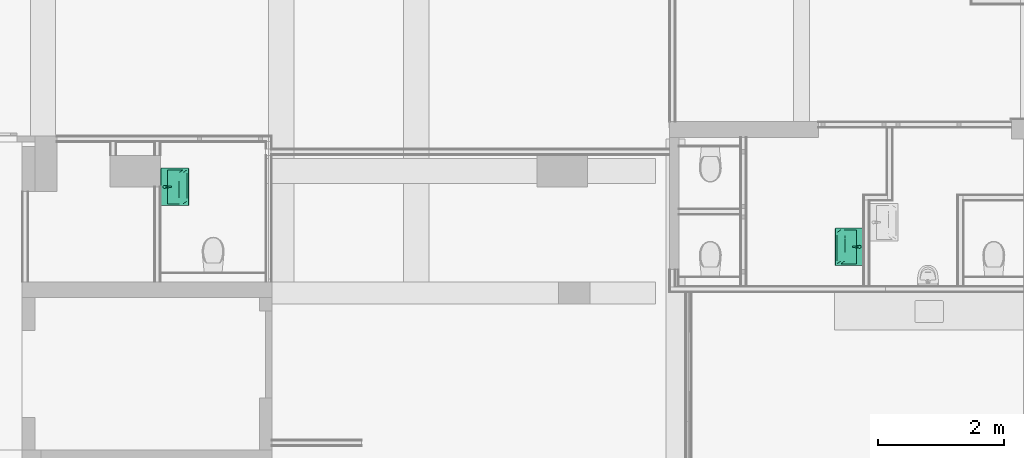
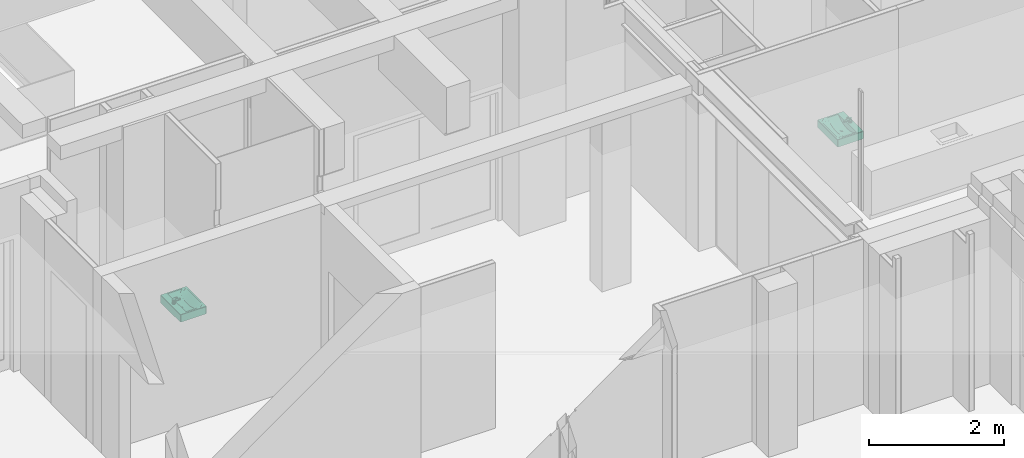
# One storey, part 97 of 117: 2 flow controllers.
"""IFC2X3 building model written with IfcOpenShell, lengths in millimetres."""

from ifc_helpers import new_model, entity, si_unit, converted_unit, derived_unit, money_unit, direction, frame, origin_with_axes, place, context, subcontext, project, spatial, open_shell, faceted_brep, surface_model, source, transform, mapped, type_object, type_shapes, element, save


model = new_model("IFC2X3")

# Units and contexts
model_context = context("Model", 3, precision=0.01, world=origin_with_axes(), true_north=direction((0.0, 1.0)))
body_context = subcontext(model_context, "Body", "Model", "MODEL_VIEW")
ifc_project = project(units=[si_unit("LENGTHUNIT", "METRE", prefix="MILLI"), si_unit("AREAUNIT", "SQUARE_METRE"), si_unit("VOLUMEUNIT", "CUBIC_METRE"), converted_unit("PLANEANGLEUNIT", "DEGREE", entity("IfcPlaneAngleMeasure", 0.0174532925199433), si_unit("PLANEANGLEUNIT", "RADIAN"), dimensions=[0, 0, 0, 0, 0, 0, 0]), money_unit("EUR"), converted_unit("TIMEUNIT", "Year", entity("IfcTimeMeasure", 31557600.0), si_unit("TIMEUNIT", "SECOND"), dimensions=[0, 0, 1, 0, 0, 0, 0]), si_unit("MASSUNIT", "GRAM", prefix="KILO"), si_unit("THERMODYNAMICTEMPERATUREUNIT", "DEGREE_CELSIUS"), si_unit("LUMINOUSINTENSITYUNIT", "LUMEN"), si_unit("ENERGYUNIT", "JOULE", prefix="MEGA"), derived_unit("THERMALCONDUCTANCEUNIT", [(si_unit("POWERUNIT", "WATT"), 1), (si_unit("LENGTHUNIT", "METRE"), -1), (si_unit("THERMODYNAMICTEMPERATUREUNIT", "KELVIN"), -1)]), derived_unit("SPECIFICHEATCAPACITYUNIT", [(si_unit("ENERGYUNIT", "JOULE"), 1), (si_unit("MASSUNIT", "GRAM", prefix="KILO"), -1), (si_unit("THERMODYNAMICTEMPERATUREUNIT", "KELVIN"), -1)]), derived_unit("MASSDENSITYUNIT", [(si_unit("MASSUNIT", "GRAM", prefix="KILO"), 1), (si_unit("VOLUMEUNIT", "CUBIC_METRE"), -1)])], contexts=[model_context])

# Site, building, storey
site_placement = place(None, origin_with_axes())
site = spatial("IfcSite", under=ifc_project, at=site_placement, Name="Site", CompositionType="ELEMENT")
building_placement = place(site_placement, origin_with_axes())
building = spatial("IfcBuilding", under=site, at=building_placement, Name="Naam gebouw", CompositionType="ELEMENT")
storey_placement = place(building_placement, frame((0.0, 0.0, 4150.0), z_axis=(0.0, 0.0, 1.0), x_axis=(1.0, 0.0, 0.0)))
storey = spatial("IfcBuildingStorey", under=building, at=storey_placement, Name="1e verdieping N", CompositionType="ELEMENT", Elevation=4150.0)

# Flow controllers
valve_type = type_object("IfcValveType", Name="Wasbak 27", PredefinedType="NOTDEFINED")
shared_shape = source(origin_with_axes(), body_context, "Body", "SurfaceModel", [
    faceted_brep([(-285.0, -450.0, 865.0), (-292.5, -447.9903810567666, 865.0), (-297.9903810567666, -442.5, 865.0), (-300.0, -435.0, 865.0), (-300.0, -15.00000000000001, 865.0), (-297.9903810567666, -7.500000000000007, 865.0), (-292.5, -2.009618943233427, 865.0), (-285.0, 0.0, 865.0), (285.0, 0.0, 865.0), (292.5, -2.009618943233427, 865.0), (297.9903810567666, -7.500000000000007, 865.0), (300.0, -15.00000000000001, 865.0), (300.0, -435.0, 865.0), (297.9903810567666, -442.5, 865.0), (292.5, -447.9903810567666, 865.0), (285.0, -450.0, 865.0), (270.0, -420.0000000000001, 865.0), (270.0, -110.0, 865.0), (-270.0, -110.0, 865.0), (-270.0, -420.0000000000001, 865.0), (-284.9999995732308, -450.0000003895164, 995.0), (-292.499999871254, -447.9903813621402, 995.0), (-297.990381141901, -442.5000000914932, 995.0), (-300.0000001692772, -434.99999979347, 995.0), (-300.0000001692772, -14.99999986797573, 995.0), (-297.990381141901, -7.499999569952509, 995.0), (-292.499999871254, -2.009619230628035, 995.0), (-284.9999995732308, -2.032518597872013e-07, 995.0), (284.9999997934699, -2.032518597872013e-07, 995.0), (292.5000000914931, -2.009619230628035, 995.0), (297.9903813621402, -7.499999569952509, 995.0), (300.0000003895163, -14.99999986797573, 995.0), (300.0000003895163, -434.99999979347, 995.0), (297.9903813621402, -442.5000000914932, 995.0), (292.5000000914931, -447.9903813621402, 995.0), (284.9999997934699, -450.0000003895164, 995.0), (270.0, -110.0, 999.9999996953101), (270.0, -420.0000000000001, 999.9999996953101), (-270.0, -110.0, 999.9999996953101), (-270.0, -420.0000000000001, 999.9999996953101), (-284.9775698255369, -449.8296295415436, 996.2940952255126), (-292.411809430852, -447.8376310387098, 996.2940952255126), (-297.8376308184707, -442.4118096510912, 996.2940952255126), (-299.8296293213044, -434.9775700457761, 996.2940952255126), (-299.8296293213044, -15.02242961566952, 996.2940952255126), (-297.8376308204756, -7.588190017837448, 996.2940952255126), (-292.4118094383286, -2.16236955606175, 996.2940952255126), (-284.9775698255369, -0.1703710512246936, 996.2940952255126), (284.9775700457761, -0.1703710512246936, 996.2940952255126), (292.4118096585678, -2.16236955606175, 996.2940952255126), (297.8376310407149, -7.588190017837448, 996.2940952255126), (299.8296295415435, -15.02242961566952, 996.2940952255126), (299.8296295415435, -434.9775700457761, 996.2940952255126), (297.8376310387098, -442.4118096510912, 996.2940952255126), (292.4118096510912, -447.8376310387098, 996.2940952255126), (284.9775700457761, -449.8296295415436, 996.2940952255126), (284.3417376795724, -4.999997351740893, 999.9999996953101), (-284.3417374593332, -4.999997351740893, 999.9999996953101), (-289.9118111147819, -6.492494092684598, 999.9999996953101), (-293.507506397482, -10.08818876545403, 999.9999996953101), (-295.0000030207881, -15.6582619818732, 999.9999996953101), (-295.0000030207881, -434.3417376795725, 999.9999996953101), (-293.5075063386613, -439.9118111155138, 999.9999996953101), (-289.9118108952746, -443.5075065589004, 999.9999996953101), (-284.3417374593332, -445.0000032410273, 999.9999996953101), (284.3417376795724, -445.0000032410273, 999.9999996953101), (289.9118111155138, -443.5075065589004, 999.9999996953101), (293.5075065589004, -439.9118111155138, 999.9999996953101), (295.0000032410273, -434.3417376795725, 999.9999996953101), (295.0000032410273, -15.6582619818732, 999.9999996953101), (293.5075066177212, -10.08818876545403, 999.9999996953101), (289.911811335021, -6.492494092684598, 999.9999996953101), (-284.8071989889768, -448.5355345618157, 998.5355339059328), (-291.7419365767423, -446.6773772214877, 998.5355339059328), (-296.6773770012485, -441.7419367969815, 998.5355339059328), (-298.5355343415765, -434.807199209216, 998.5355339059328), (-298.5355343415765, -15.1928004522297, 998.5355339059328), (-296.677377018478, -8.258062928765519, 998.5355339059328), (-291.7419366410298, -3.322623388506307, 998.5355339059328), (-284.8071989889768, -1.464466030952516, 998.5355339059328), (284.8071992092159, -1.464466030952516, 998.5355339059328), (291.7419368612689, -3.322623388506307, 998.5355339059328), (296.6773772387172, -8.258062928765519, 998.5355339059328), (298.5355345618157, -15.1928004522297, 998.5355339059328), (298.5355345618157, -434.807199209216, 998.5355339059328), (296.6773772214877, -441.7419367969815, 998.5355339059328), (291.7419367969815, -446.6773772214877, 998.5355339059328), (284.8071992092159, -448.5355345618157, 998.5355339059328), (284.5121082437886, -3.705904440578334, 999.8296291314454), (-284.5121080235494, -3.705904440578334, 999.8296291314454), (-290.581682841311, -5.332242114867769, 999.8296291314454), (-294.667758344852, -9.418316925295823, 999.8296291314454), (-296.2940959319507, -15.487891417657, 999.8296291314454), (-296.2940959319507, -434.5121082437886, 999.8296291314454), (-294.6677583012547, -440.5816828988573, 999.8296291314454), (-290.5816826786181, -444.6677585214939, 999.8296291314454), (-284.5121080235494, -446.2940961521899, 999.8296291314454), (284.5121082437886, -446.2940961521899, 999.8296291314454), (290.5816828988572, -444.6677585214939, 999.8296291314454), (294.6677585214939, -440.5816828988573, 999.8296291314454), (296.2940961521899, -434.5121082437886, 999.8296291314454), (296.2940961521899, -15.487891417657, 999.8296291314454), (294.6677585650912, -9.418316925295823, 999.8296291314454), (290.5816830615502, -5.332242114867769, 999.8296291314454)], [[[0, 1, 2, 3, 4, 5, 6, 7, 8, 9, 10, 11, 12, 13, 14, 15], [16, 17, 18, 19]], [[1, 0, 20, 21]], [[2, 1, 21, 22]], [[3, 2, 22, 23]], [[4, 3, 23, 24]], [[5, 4, 24, 25]], [[6, 5, 25, 26]], [[7, 6, 26, 27]], [[8, 7, 27, 28]], [[9, 8, 28, 29]], [[10, 9, 29, 30]], [[11, 10, 30, 31]], [[12, 11, 31, 32]], [[13, 12, 32, 33]], [[14, 13, 33, 34]], [[15, 14, 34, 35]], [[0, 15, 35, 20]], [[36, 17, 16, 37]], [[38, 18, 17, 36]], [[39, 19, 18, 38]], [[37, 16, 19, 39]], [[21, 20, 40, 41]], [[22, 21, 41, 42]], [[23, 22, 42, 43]], [[24, 23, 43, 44]], [[25, 24, 44, 45]], [[26, 25, 45, 46]], [[27, 26, 46, 47]], [[28, 27, 47, 48]], [[29, 28, 48, 49]], [[30, 29, 49, 50]], [[31, 30, 50, 51]], [[32, 31, 51, 52]], [[33, 32, 52, 53]], [[34, 33, 53, 54]], [[35, 34, 54, 55]], [[20, 35, 55, 40]], [[56, 57, 58, 59, 60, 61, 62, 63, 64, 65, 66, 67, 68, 69, 70, 71], [37, 39, 38, 36]], [[41, 40, 72, 73]], [[42, 41, 73, 74]], [[43, 42, 74, 75]], [[44, 43, 75, 76]], [[45, 44, 76, 77]], [[46, 45, 77, 78]], [[47, 46, 78, 79]], [[48, 47, 79, 80]], [[49, 48, 80, 81]], [[50, 49, 81, 82]], [[51, 50, 82, 83]], [[52, 51, 83, 84]], [[53, 52, 84, 85]], [[54, 53, 85, 86]], [[55, 54, 86, 87]], [[40, 55, 87, 72]], [[88, 89, 57, 56]], [[89, 90, 58, 57]], [[90, 91, 59, 58]], [[91, 92, 60, 59]], [[92, 93, 61, 60]], [[93, 94, 62, 61]], [[94, 95, 63, 62]], [[95, 96, 64, 63]], [[96, 97, 65, 64]], [[97, 98, 66, 65]], [[98, 99, 67, 66]], [[99, 100, 68, 67]], [[100, 101, 69, 68]], [[101, 102, 70, 69]], [[102, 103, 71, 70]], [[103, 88, 56, 71]], [[73, 72, 96, 95]], [[74, 73, 95, 94]], [[75, 74, 94, 93]], [[76, 75, 93, 92]], [[77, 76, 92, 91]], [[78, 77, 91, 90]], [[79, 78, 90, 89]], [[80, 79, 89, 88]], [[81, 80, 88, 103]], [[82, 81, 103, 102]], [[83, 82, 102, 101]], [[84, 83, 101, 100]], [[85, 84, 100, 99]], [[86, 85, 99, 98]], [[87, 86, 98, 97]], [[72, 87, 97, 96]]]),
    faceted_brep([(270.0, -420.0000000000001, 865.0), (-270.0, -420.0000000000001, 865.0), (-270.0, -110.0, 865.0), (270.0, -110.0, 865.0), (-12.49999999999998, -224.368635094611, 865.0), (0.0, -227.718, 865.0), (12.50000000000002, -224.368635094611, 865.0), (21.65063509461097, -215.218, 865.0), (25.0, -202.718, 865.0), (21.65063509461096, -190.218, 865.0), (12.49999999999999, -181.067364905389, 865.0), (0.0, -177.718, 865.0), (-12.50000000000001, -181.067364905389, 865.0), (-21.65063509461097, -190.218, 865.0), (-25.0, -202.718, 865.0), (-21.65063509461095, -215.218, 865.0), (135.0, -420.0000000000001, 1000.0), (90.0, -420.0000000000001, 1000.0), (44.99999999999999, -420.0000000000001, 1000.0), (0.0, -420.0000000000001, 1000.0), (-45.00000000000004, -420.0000000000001, 1000.0), (-90.00000000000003, -420.0000000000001, 1000.0), (-135.0, -420.0000000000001, 1000.0), (-180.0000000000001, -420.0000000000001, 1000.0), (-225.0, -420.0000000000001, 1000.0), (-270.0, -420.0000000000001, 1000.0), (270.0, -420.0000000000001, 1000.0), (225.0, -420.0000000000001, 1000.0), (180.0, -420.0000000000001, 1000.0), (-270.0, -234.0, 1000.0), (-270.0, -172.0, 1000.0), (-270.0, -110.0, 1000.0), (-270.0, -358.0000000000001, 1000.0), (-270.0, -296.0000000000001, 999.9999999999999), (-135.0, -110.0, 922.6004593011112), (-90.00000000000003, -110.0, 909.8887668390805), (-45.00000000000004, -110.0, 902.449942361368), (0.0, -110.0, 900.0), (44.99999999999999, -110.0, 902.449942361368), (90.0, -110.0, 909.8887668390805), (135.0, -110.0, 922.6004593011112), (180.0, -110.0, 941.1231796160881), (225.0, -110.0, 966.3832810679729), (270.0, -110.0, 1000.0), (-225.0, -110.0, 966.3832810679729), (-180.0000000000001, -110.0, 941.1231796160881), (270.0, -296.0000000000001, 1000.0), (270.0, -358.0000000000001, 1000.0), (270.0, -172.0, 1000.0), (270.0, -234.0, 1000.0), (0.0, -227.718, 900.0), (-12.49999999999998, -224.368635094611, 900.6805395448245), (12.50000000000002, -224.368635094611, 900.6805395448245), (21.65063509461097, -215.218, 901.1787290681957), (25.0, -202.718, 901.3610790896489), (21.65063509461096, -190.218, 901.1787290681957), (12.49999999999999, -181.067364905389, 900.6805395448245), (0.0, -177.718, 900.0), (-12.50000000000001, -181.067364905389, 900.6805395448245), (-21.65063509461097, -190.218, 901.1787290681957), (-25.0, -202.718, 901.3610790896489), (-21.65063509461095, -215.218, 901.1787290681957), (90.0, -358.0000000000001, 959.6989661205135), (44.99999999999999, -358.0000000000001, 956.0213334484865), (0.0, -358.0000000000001, 954.7990813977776), (-45.00000000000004, -358.0000000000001, 956.0213334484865), (-90.00000000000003, -358.0000000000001, 959.6989661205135), (-135.0, -358.0000000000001, 965.8650987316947), (-180.0000000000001, -358.0000000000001, 974.5766150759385), (-225.0, -358.0000000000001, 985.9168845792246), (225.0, -358.0000000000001, 985.9168845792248), (180.0, -358.0000000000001, 974.5766150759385), (135.0, -358.0000000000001, 965.8650987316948), (-225.0, -234.0, 966.3832810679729), (-225.0, -172.0, 966.3832810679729), (-225.0, -296.0000000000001, 970.8433791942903), (-135.0, -172.0, 922.6004593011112), (-90.00000000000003, -172.0, 909.8887668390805), (-45.00000000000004, -172.0, 902.449942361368), (0.0, -172.0, 900.0), (44.99999999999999, -172.0, 902.449942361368), (90.0, -172.0, 909.8887668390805), (135.0, -172.0, 922.6004593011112), (180.0, -172.0, 941.1231796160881), (225.0, -172.0, 966.3832810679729), (-180.0000000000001, -172.0, 941.1231796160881), (225.0, -296.0000000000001, 970.8433791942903), (225.0, -234.0, 966.3832810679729), (-45.00000000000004, -234.0, 902.449942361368), (0.0, -234.0, 900.0), (44.99999999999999, -234.0, 902.449942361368), (-180.0000000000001, -234.0, 941.1231796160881), (-135.0, -234.0, 922.6004593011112), (-90.00000000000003, -234.0, 909.8887668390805), (90.0, -234.0, 909.8887668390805), (135.0, -234.0, 922.6004593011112), (180.0, -234.0, 941.1231796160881), (0.0, -296.0000000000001, 911.4604006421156), (44.99999999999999, -296.0000000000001, 913.6864730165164), (90.0, -296.0000000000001, 920.4312036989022), (-45.00000000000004, -296.0000000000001, 913.6864730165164), (-90.00000000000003, -296.0000000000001, 920.4312036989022), (-135.0, -296.0000000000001, 931.904485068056), (-180.0000000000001, -296.0000000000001, 948.4946543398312), (180.0, -296.0000000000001, 948.4946543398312), (135.0, -296.0000000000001, 931.904485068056)], [[[0, 1, 2, 3], [4, 5, 6, 7, 8, 9, 10, 11, 12, 13, 14, 15]], [[16, 17, 18, 19, 20, 21, 22, 23, 24, 25, 1, 0, 26, 27, 28]], [[29, 30, 31, 2, 1, 25, 32, 33]], [[34, 35, 36, 37, 38, 39, 40, 41, 42, 43, 3, 2, 31, 44, 45]], [[46, 47, 26, 0, 3, 43, 48, 49]], [[50, 5, 4, 51]], [[52, 6, 5, 50]], [[53, 7, 6, 52]], [[54, 8, 7, 53]], [[55, 9, 8, 54]], [[56, 10, 9, 55]], [[57, 11, 10, 56]], [[58, 12, 11, 57]], [[59, 13, 12, 58]], [[60, 14, 13, 59]], [[61, 15, 14, 60]], [[51, 4, 15, 61]], [[16, 62, 17]], [[17, 63, 18]], [[18, 64, 19]], [[19, 65, 20]], [[20, 66, 21]], [[21, 67, 22]], [[22, 68, 23]], [[23, 69, 24]], [[24, 32, 25]], [[26, 70, 27]], [[27, 71, 28]], [[28, 72, 16]], [[29, 73, 74, 30]], [[30, 74, 44, 31]], [[69, 33, 32]], [[75, 29, 33]], [[76, 77, 35, 34]], [[77, 78, 36, 35]], [[78, 79, 37, 36]], [[79, 80, 38, 37]], [[80, 81, 39, 38]], [[81, 82, 40, 39]], [[82, 83, 41, 40]], [[83, 84, 42, 41]], [[84, 48, 43, 42]], [[74, 85, 45, 44]], [[85, 76, 34, 45]], [[47, 46, 86]], [[26, 47, 70]], [[87, 49, 48, 84]], [[46, 49, 87]], [[58, 57, 79, 78, 88, 89, 50, 51, 61, 60, 59]], [[56, 55, 54, 53, 52, 50, 89, 90, 80, 79, 57]], [[16, 72, 62]], [[17, 62, 63]], [[18, 63, 64]], [[19, 64, 65]], [[20, 65, 66]], [[21, 66, 67]], [[22, 67, 68]], [[23, 68, 69]], [[24, 69, 32]], [[27, 70, 71]], [[28, 71, 72]], [[75, 73, 29]], [[73, 91, 85, 74]], [[69, 75, 33]], [[92, 93, 77, 76]], [[93, 88, 78, 77]], [[90, 94, 81, 80]], [[94, 95, 82, 81]], [[95, 96, 83, 82]], [[96, 87, 84, 83]], [[91, 92, 76, 85]], [[46, 87, 86]], [[47, 86, 70]], [[97, 89, 88]], [[98, 90, 89]], [[72, 99, 62]], [[62, 98, 63]], [[63, 97, 64]], [[64, 100, 65]], [[65, 101, 66]], [[66, 102, 67]], [[67, 103, 68]], [[68, 75, 69]], [[70, 104, 71]], [[71, 105, 72]], [[103, 73, 75]], [[103, 91, 73]], [[101, 93, 92]], [[100, 88, 93]], [[99, 94, 90]], [[105, 95, 94]], [[104, 96, 95]], [[86, 87, 96]], [[102, 92, 91]], [[70, 86, 104]], [[98, 89, 97]], [[97, 88, 100]], [[99, 90, 98]], [[72, 105, 99]], [[62, 99, 98]], [[63, 98, 97]], [[64, 97, 100]], [[65, 100, 101]], [[66, 101, 102]], [[67, 102, 103]], [[68, 103, 75]], [[71, 104, 105]], [[102, 91, 103]], [[100, 93, 101]], [[101, 92, 102]], [[105, 94, 99]], [[104, 95, 105]], [[86, 96, 104]]]),
    faceted_brep([(-21.65063509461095, -215.218, 900.0), (-25.0, -202.718, 900.0), (-21.65063509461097, -190.218, 900.0), (-12.50000000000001, -181.067364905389, 900.0), (0.0, -177.718, 900.0), (12.49999999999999, -181.067364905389, 900.0), (21.65063509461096, -190.218, 900.0), (25.0, -202.718, 900.0), (21.65063509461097, -215.218, 900.0), (12.50000000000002, -224.368635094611, 900.0), (0.0, -227.718, 900.0), (-12.49999999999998, -224.368635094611, 900.0), (-21.65063509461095, -215.218, 905.0), (-25.0, -202.718, 905.0), (-21.65063509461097, -190.218, 905.0), (-12.50000000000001, -181.067364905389, 905.0), (0.0, -177.718, 905.0), (12.49999999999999, -181.067364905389, 905.0), (21.65063509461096, -190.218, 905.0), (25.0, -202.718, 905.0), (21.65063509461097, -215.218, 905.0), (12.50000000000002, -224.368635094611, 905.0), (0.0, -227.718, 905.0), (-12.49999999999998, -224.368635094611, 905.0)], [[[0, 1, 2, 3, 4, 5, 6, 7, 8, 9, 10, 11]], [[0, 12, 13, 1]], [[1, 13, 14, 2]], [[2, 14, 15, 3]], [[3, 15, 16, 4]], [[4, 16, 17, 5]], [[5, 17, 18, 6]], [[6, 18, 19, 7]], [[7, 19, 20, 8]], [[8, 20, 21, 9]], [[9, 21, 22, 10]], [[10, 22, 23, 11]], [[11, 23, 12, 0]], [[12, 23, 22, 21, 20, 19, 18, 17, 16, 15, 14, 13]]]),
    surface_model("IfcShellBasedSurfaceModel", [(0.0, -202.718, 907.0), (6.310952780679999, -191.7871091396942, 906.4975737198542), (0.0, -190.09609443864, 906.4975737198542), (10.93089086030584, -196.40704721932, 906.4975737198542), (12.5, -181.067364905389, 905.0), (0.0, -177.718, 905.0), (-6.310952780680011, -191.7871091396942, 906.4975737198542), (12.62190556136, -202.718, 906.4975737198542), (21.65063509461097, -190.218, 905.0), (-12.50000000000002, -181.067364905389, 905.0), (-10.93089086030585, -196.40704721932, 906.4975737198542), (10.93089086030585, -209.02895278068, 906.4975737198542), (25.0, -202.718, 905.0), (-21.65063509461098, -190.218, 905.0), (-12.62190556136, -202.718, 906.4975737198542), (6.310952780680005, -213.6488908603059, 906.4975737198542), (21.65063509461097, -215.218, 905.0), (-25.0, -202.718, 905.0), (-10.93089086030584, -209.02895278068, 906.4975737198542), (0.0, -215.33990556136, 906.4975737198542), (12.50000000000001, -224.368635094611, 905.0), (-21.65063509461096, -215.218, 905.0), (-6.310952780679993, -213.6488908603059, 906.4975737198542), (0.0, -227.718, 905.0), (-12.49999999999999, -224.368635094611, 905.0)], [open_shell([[[0, 1, 2]], [[0, 3, 1]], [[1, 4, 5, 2]], [[0, 2, 6]], [[0, 7, 3]], [[3, 8, 4, 1]], [[2, 5, 9, 6]], [[0, 6, 10]], [[0, 11, 7]], [[7, 12, 8, 3]], [[6, 9, 13, 10]], [[0, 10, 14]], [[0, 15, 11]], [[11, 16, 12, 7]], [[10, 13, 17, 14]], [[0, 14, 18]], [[0, 19, 15]], [[15, 20, 16, 11]], [[14, 17, 21, 18]], [[0, 18, 22]], [[0, 22, 19]], [[19, 23, 20, 15]], [[18, 21, 24, 22]], [[22, 24, 23, 19]]])]),
    faceted_brep([(-12.50000000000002, -38.34936490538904, 1000.0), (-10.587322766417, -41.66221905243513, 1076.507089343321), (0.0, -38.79807692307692, 1075.961538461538), (0.0, -34.99999999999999, 1000.0), (-21.65063509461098, -47.50000000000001, 1000.0), (-18.27355038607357, -49.44976076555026, 1077.99043062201), (-21.0, -60.00000000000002, 1080.0), (-18.10034137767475, -70.45023696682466, 1081.990521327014), (-10.41410590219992, -78.03776053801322, 1083.435763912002), (0.0, -80.80188679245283, 1083.962264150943), (10.41410590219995, -78.0377605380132, 1083.435763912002), (18.10034137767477, -70.45023696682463, 1081.990521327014), (21.0, -59.99999999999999, 1080.0), (18.27355038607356, -49.44976076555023, 1077.99043062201), (10.58732276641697, -41.66221905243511, 1076.507089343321), (12.5, -38.34936490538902, 1000.0), (21.65063509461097, -47.49999999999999, 1000.0), (25.0, -59.99999999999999, 1000.0), (21.65063509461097, -72.5, 1000.0), (12.50000000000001, -81.65063509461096, 1000.0), (0.0, -84.99999999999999, 1000.0), (-12.49999999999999, -81.65063509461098, 1000.0), (-21.65063509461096, -72.50000000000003, 1000.0), (-25.0, -60.00000000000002, 1000.0)], [[[0, 1, 2, 3]], [[4, 5, 1, 0]], [[1, 5, 6, 7, 8, 9, 10, 11, 12, 13, 14, 2]], [[3, 2, 14, 15]], [[0, 3, 15, 16, 17, 18, 19, 20, 21, 22, 23, 4]], [[23, 6, 5, 4]], [[22, 7, 6, 23]], [[21, 8, 7, 22]], [[20, 9, 8, 21]], [[19, 10, 9, 20]], [[18, 11, 10, 19]], [[17, 12, 11, 18]], [[16, 13, 12, 17]], [[15, 14, 13, 16]]]),
    faceted_brep([(-9.000000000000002, -163.0, 1035.0), (-9.000000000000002, -163.0, 1045.0), (-7.794228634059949, -158.5, 1045.0), (-7.794228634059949, -158.5, 1035.0), (-7.794228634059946, -167.5, 1035.0), (-7.794228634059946, -167.5, 1045.0), (-4.499999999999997, -170.79422863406, 1045.0), (0.0, -172.0, 1045.0), (4.500000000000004, -170.79422863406, 1045.0), (7.794228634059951, -167.5, 1045.0), (9.000000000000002, -163.0, 1045.0), (7.794228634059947, -158.5, 1045.0), (4.499999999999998, -155.2057713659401, 1045.0), (0.0, -154.0, 1045.0), (-4.500000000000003, -155.2057713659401, 1045.0), (-4.500000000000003, -155.2057713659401, 1035.0), (0.0, -154.0, 1035.0), (4.499999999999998, -155.2057713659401, 1035.0), (7.794228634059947, -158.5, 1035.0), (9.000000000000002, -163.0, 1035.0), (7.794228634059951, -167.5, 1035.0), (4.500000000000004, -170.79422863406, 1035.0), (0.0, -172.0, 1035.0), (-4.499999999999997, -170.79422863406, 1035.0)], [[[0, 1, 2, 3]], [[4, 5, 1, 0]], [[1, 5, 6, 7, 8, 9, 10, 11, 12, 13, 14, 2]], [[3, 2, 14, 15]], [[0, 3, 15, 16, 17, 18, 19, 20, 21, 22, 23, 4]], [[23, 6, 5, 4]], [[22, 7, 6, 23]], [[21, 8, 7, 22]], [[20, 9, 8, 21]], [[19, 10, 9, 20]], [[18, 11, 10, 19]], [[17, 12, 11, 18]], [[16, 13, 12, 17]], [[15, 14, 13, 16]]]),
    faceted_brep([(12.87171762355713, -39.74369617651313, 1060.0), (-1.019988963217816e-06, -36.00002168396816, 1060.0), (-12.87171934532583, -39.74369727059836, 1060.0), (-21.72780617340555, -49.80679647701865, 1060.0), (-23.80539974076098, -63.04990202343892, 1060.0), (-10.912, -164.3883, 1060.0), (-9.02891689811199, -169.2831346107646, 1060.0), (-5.093388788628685, -172.7496928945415, 1060.0), (-3.626798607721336e-05, -173.9999600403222, 1060.0), (5.093324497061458, -172.7497264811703, 1060.0), (9.02887546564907, -169.2831941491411, 1060.0), (10.9119908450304, -164.3883719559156, 1060.0), (23.8054, -63.04989999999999, 1060.0), (21.72780530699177, -49.80679463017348, 1060.0), (-11.00000000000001, -40.94744111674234, 1060.0), (0.0, -37.99999999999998, 1060.0), (11.0, -40.94744111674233, 1060.0), (19.05255888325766, -48.99999999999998, 1060.0), (22.00000000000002, -59.99999999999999, 1060.0), (19.05255888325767, -70.99999999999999, 1060.0), (11.00000000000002, -79.05255888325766, 1060.0), (0.0, -82.0, 1060.0), (-10.99999999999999, -79.05255888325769, 1060.0), (-19.05255888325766, -71.00000000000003, 1060.0), (-22.00000000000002, -60.0, 1060.0), (-19.05255888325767, -48.99999999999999, 1060.0), (12.87171762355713, -39.74369617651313, 1045.0), (-1.019988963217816e-06, -36.00002168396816, 1045.0), (-12.87171934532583, -39.74369727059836, 1045.0), (-21.72780617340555, -49.80679647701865, 1045.0), (-23.80539974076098, -63.04990202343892, 1045.0), (-10.912, -164.3883, 1045.0), (-9.02891689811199, -169.2831346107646, 1045.0), (-5.093388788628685, -172.7496928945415, 1045.0), (-3.626798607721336e-05, -173.9999600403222, 1045.0), (5.093324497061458, -172.7497264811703, 1045.0), (9.02887546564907, -169.2831941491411, 1045.0), (10.9119908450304, -164.3883719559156, 1045.0), (23.8054, -63.04989999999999, 1045.0), (21.72780530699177, -49.80679463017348, 1045.0), (0.0, -37.24999999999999, 1045.0), (-11.37500000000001, -40.297922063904, 1045.0), (11.375, -40.297922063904, 1045.0), (19.70207793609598, -48.62499999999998, 1045.0), (22.75000000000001, -59.99999999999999, 1045.0), (19.70207793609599, -71.375, 1045.0), (11.37500000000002, -79.70207793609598, 1045.0), (0.0, -82.75, 1045.0), (-11.37499999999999, -79.702077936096, 1045.0), (-19.70207793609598, -71.37500000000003, 1045.0), (-22.75000000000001, -60.0, 1045.0), (-19.70207793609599, -48.62499999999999, 1045.0)], [[[0, 1, 2, 3, 4, 5, 6, 7, 8, 9, 10, 11, 12, 13], [14, 15, 16, 17, 18, 19, 20, 21, 22, 23, 24, 25]], [[26, 27, 1, 0]], [[27, 28, 2, 1]], [[28, 29, 3, 2]], [[29, 30, 4, 3]], [[30, 31, 5, 4]], [[31, 32, 6, 5]], [[32, 33, 7, 6]], [[33, 34, 8, 7]], [[34, 35, 9, 8]], [[35, 36, 10, 9]], [[36, 37, 11, 10]], [[37, 38, 12, 11]], [[38, 39, 13, 12]], [[39, 26, 0, 13]], [[40, 15, 14, 41]], [[42, 16, 15, 40]], [[16, 42, 43, 17]], [[17, 43, 44, 18]], [[18, 44, 45, 19]], [[19, 45, 46, 20]], [[20, 46, 47, 21]], [[48, 22, 21, 47]], [[49, 23, 22, 48]], [[50, 24, 23, 49]], [[51, 25, 24, 50]], [[41, 14, 25, 51]], [[34, 33, 32, 31, 30, 29, 28, 27, 26, 39, 38, 37, 36, 35], [48, 47, 46, 45, 44, 43, 42, 40, 41, 51, 50, 49]]]),
    faceted_brep([(-23.893, -61.69256934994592, 1080.322394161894), (-23.893, -60.94412091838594, 1084.251748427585), (-21.29642141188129, -48.47683276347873, 1081.877026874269), (-21.29642141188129, -49.22528119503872, 1077.947672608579), (-20.94593649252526, -101.8367022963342, 1087.968895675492), (-20.94593649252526, -101.0882538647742, 1091.898249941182), (-17.66313911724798, -110.765918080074, 1093.74161455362), (-10.06143529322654, -117.7152976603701, 1095.065305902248), (0.0004426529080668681, -120.2371634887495, 1095.54566129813), (10.06221236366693, -117.7148809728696, 1095.0652265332), (17.66361794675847, -110.7651865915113, 1093.741475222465), (20.946, -101.0873864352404, 1091.898084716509), (23.89302047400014, -60.9438419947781, 1084.251695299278), (21.29629106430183, -48.47658415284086, 1081.876979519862), (12.4716815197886, -39.16035412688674, 1080.102459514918), (-0.0001423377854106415, -35.71958706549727, 1079.447075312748), (-12.47192457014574, -39.16049972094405, 1080.102487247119), (-14.0, -84.79235429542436, 1088.79426907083), (14.0, -84.79235429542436, 1088.79426907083), (14.0, -99.60798455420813, 1091.616293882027), (12.12435565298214, -106.4843545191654, 1092.926078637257), (7.000000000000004, -111.5182067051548, 1093.884907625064), (0.0, -113.3607244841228, 1094.235863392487), (-6.999999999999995, -111.5182067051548, 1093.884907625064), (-12.12435565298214, -106.4843545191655, 1092.926078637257), (-14.0, -99.60798455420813, 1091.616293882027), (-12.47192457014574, -39.90894815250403, 1076.173132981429), (-0.0001423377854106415, -36.46803549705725, 1075.517721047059), (12.4716815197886, -39.90880255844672, 1076.173105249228), (21.29629106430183, -49.22503258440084, 1077.947625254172), (23.89302047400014, -61.69229042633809, 1080.322341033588), (20.946, -101.8358348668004, 1087.968730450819), (17.66361794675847, -111.5136350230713, 1089.812120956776), (10.06221236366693, -118.4633294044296, 1091.13587226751), (0.0004426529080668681, -120.9856119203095, 1091.61630703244), (-10.06143529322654, -118.4637460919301, 1091.135951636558), (-17.66313911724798, -111.514366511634, 1089.81226028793), (-14.0, -85.54080272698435, 1084.86491480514), (-14.0, -100.3564329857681, 1087.686939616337), (-12.12435565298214, -107.2328029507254, 1088.996724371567), (-6.999999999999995, -112.2666551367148, 1089.955553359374), (0.0, -114.1091729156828, 1090.306509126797), (7.000000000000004, -112.2666551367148, 1089.955553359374), (12.12435565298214, -107.2328029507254, 1088.996724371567), (14.0, -100.3564329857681, 1087.686939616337), (14.0, -85.54080272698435, 1084.86491480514)], [[[0, 1, 2, 3]], [[4, 5, 1, 0]], [[1, 5, 6, 7, 8, 9, 10, 11, 12, 13, 14, 15, 16, 2], [17, 18, 19, 20, 21, 22, 23, 24, 25]], [[3, 2, 16, 26]], [[0, 3, 26, 27, 28, 29, 30, 31, 32, 33, 34, 35, 36, 4], [37, 38, 39, 40, 41, 42, 43, 44, 45]], [[36, 6, 5, 4]], [[35, 7, 6, 36]], [[34, 8, 7, 35]], [[33, 9, 8, 34]], [[32, 10, 9, 33]], [[31, 11, 10, 32]], [[30, 12, 11, 31]], [[29, 13, 12, 30]], [[28, 14, 13, 29]], [[27, 15, 14, 28]], [[26, 16, 15, 27]], [[45, 18, 17, 37]], [[44, 19, 18, 45]], [[43, 20, 19, 44]], [[42, 21, 20, 43]], [[41, 22, 21, 42]], [[40, 23, 22, 41]], [[39, 24, 23, 40]], [[38, 25, 24, 39]], [[37, 17, 25, 38]]]),
])
type_shapes(valve_type, [shared_shape])
for number, where, z_axis, x_axis, name in (
    (1, (22236.0, 17115.91242510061, -150.0000000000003), (0.0, 0.0, 1.0), (0.0, 1.0, 0.0), "_Sanitair-x"),
    (2, (33383.11817762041, 16164.40092824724, -150.0000000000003), (0.0, 0.0, 1.0), (0.0, -1.0, 0.0), "_Sanitair-x"),
):
    element("IfcFlowController", number, at=place(storey_placement, frame(where, z_axis=z_axis, x_axis=x_axis)), inside=storey, type_object=valve_type, Name=name, ObjectType="Electric Distribution Board", context=body_context, shape_type="MappedRepresentation", body=[
        mapped(shared_shape, transform((0.0, 0.0, 0.0))),
    ])

save(model, "model.ifc")
